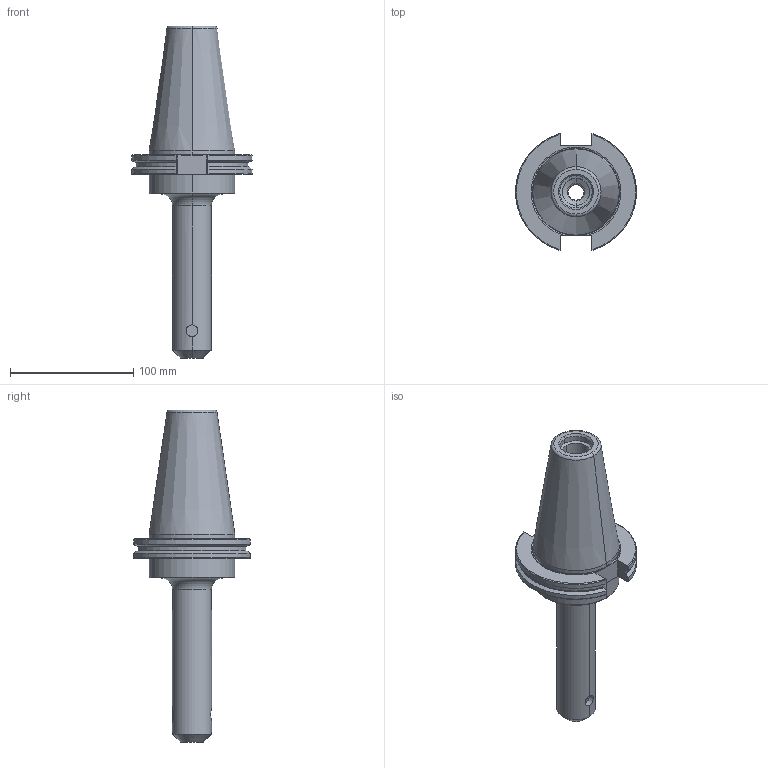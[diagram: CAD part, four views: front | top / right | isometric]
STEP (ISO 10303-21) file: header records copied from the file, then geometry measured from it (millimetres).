
FILE_DESCRIPTION (( 'STEP AP214' ), '1' );
FILE_NAME ('RC5EM05006630.STEP', '2019-02-08T14:41:46', ( '' ), ( '' ), 'SwSTEP 2.0', 'SolidWorks 2019', '' );
FILE_SCHEMA (( 'AUTOMOTIVE_DESIGN' ));
Length unit declared in the file: inch
Products named in the file (1): RC5EM05006630
Bounding box: 98.05 x 94.95 x 269.88 mm (x, y, z)
Volume: 464021 mm3; surface area: 66660.7 mm2
Topology: 1 solids, 1 shells, 121 faces, 309 edges, 190 vertices
Faces by surface type: cylinder 38, plane 36, cone 31, torus 16
Entity records: 4098 total; most frequent: CARTESIAN_POINT 1099, DIRECTION 622, ORIENTED_EDGE 610, EDGE_CURVE 305, AXIS2_PLACEMENT_3D 247, VERTEX_POINT 190, LINE 128, VECTOR 128
